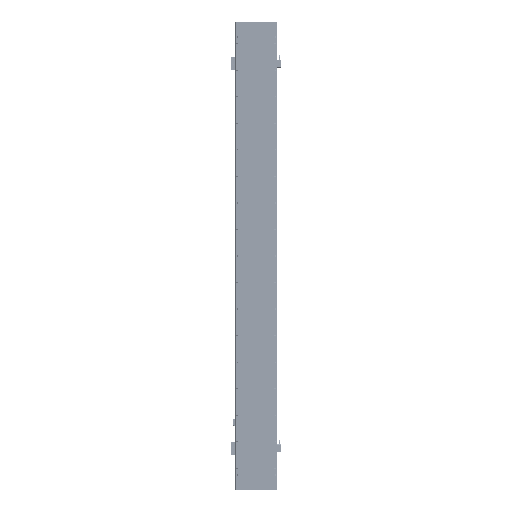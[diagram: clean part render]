
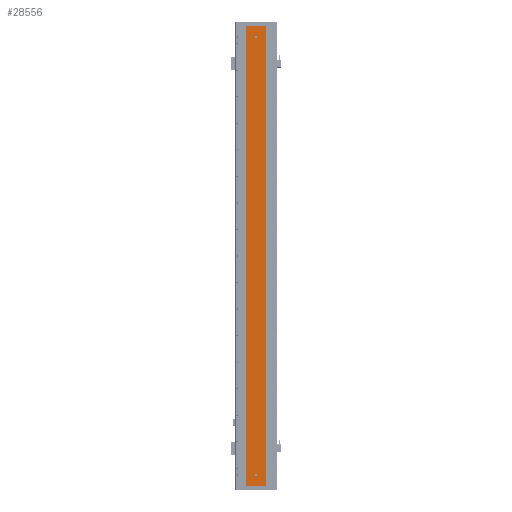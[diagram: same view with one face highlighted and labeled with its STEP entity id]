
A CAD part, front view. The second image highlights one B-rep face of the part: STEP entity #28556.
In plain terms, the highlighted planar face has unit normal (0, -1, 0).
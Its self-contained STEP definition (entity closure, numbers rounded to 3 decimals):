
#339 = CARTESIAN_POINT ( 'NONE',  ( -45., 0., -1038. ) ) ;
#2498 = ORIENTED_EDGE ( 'NONE', *, *, #120167, .F. ) ;
#2594 = ORIENTED_EDGE ( 'NONE', *, *, #75343, .T. ) ;
#5350 = VERTEX_POINT ( 'NONE', #13076 ) ;
#6104 = EDGE_LOOP ( 'NONE', ( #32100, #38266, #2498, #2594 ) ) ;
#6459 = ORIENTED_EDGE ( 'NONE', *, *, #42559, .F. ) ;
#6693 = EDGE_CURVE ( 'NONE', #28079, #112958, #102116, .T. ) ;
#7763 = LINE ( 'NONE', #43807, #54400 ) ;
#9191 = PLANE ( 'NONE',  #20084 ) ;
#10307 = FACE_BOUND ( 'NONE', #87865, .T. ) ;
#12374 = CARTESIAN_POINT ( 'NONE',  ( 4., 0., -989. ) ) ;
#13076 = CARTESIAN_POINT ( 'NONE',  ( 0., 0., 986. ) ) ;
#15814 = VECTOR ( 'NONE', #51748, 1000. ) ;
#15965 = CARTESIAN_POINT ( 'NONE',  ( 45., 0., -1038. ) ) ;
#16637 = VERTEX_POINT ( 'NONE', #81480 ) ;
#17279 = CIRCLE ( 'NONE', #45097, 4. ) ;
#18479 = DIRECTION ( 'NONE',  ( -1., 0., 0. ) ) ;
#20084 = AXIS2_PLACEMENT_3D ( 'NONE', #109587, #74446, #18479 ) ;
#20284 = LINE ( 'NONE', #93131, #45076 ) ;
#23159 = DIRECTION ( 'NONE',  ( 0., -1., 0. ) ) ;
#27803 = DIRECTION ( 'NONE',  ( 0., 0., -1. ) ) ;
#28079 = VERTEX_POINT ( 'NONE', #339 ) ;
#28556 = ADVANCED_FACE ( 'NONE', ( #10307, #106699, #37960 ), #9191, .F. ) ;
#32100 = ORIENTED_EDGE ( 'NONE', *, *, #6693, .T. ) ;
#32931 = CARTESIAN_POINT ( 'NONE',  ( 4., 0., -989. ) ) ;
#33279 = VERTEX_POINT ( 'NONE', #12374 ) ;
#36344 = ORIENTED_EDGE ( 'NONE', *, *, #68240, .F. ) ;
#37960 = FACE_OUTER_BOUND ( 'NONE', #6104, .T. ) ;
#38266 = ORIENTED_EDGE ( 'NONE', *, *, #110572, .F. ) ;
#40264 = DIRECTION ( 'NONE',  ( 0., -1., 0. ) ) ;
#40681 = CARTESIAN_POINT ( 'NONE',  ( 0., 0., 990. ) ) ;
#41036 = AXIS2_PLACEMENT_3D ( 'NONE', #96244, #40264, #105651 ) ;
#42109 = DIRECTION ( 'NONE',  ( 0., -1., 0. ) ) ;
#42559 = EDGE_CURVE ( 'NONE', #5350, #16637, #62576, .T. ) ;
#42996 = LINE ( 'NONE', #112497, #76683 ) ;
#43807 = CARTESIAN_POINT ( 'NONE',  ( -45., 0., 1038. ) ) ;
#44226 = DIRECTION ( 'NONE',  ( 1., 0., 0. ) ) ;
#45076 = VECTOR ( 'NONE', #27803, 1000. ) ;
#45097 = AXIS2_PLACEMENT_3D ( 'NONE', #40681, #106058, #50065 ) ;
#45226 = CARTESIAN_POINT ( 'NONE',  ( 45., 0., -1038. ) ) ;
#48793 = DIRECTION ( 'NONE',  ( 0., 0., -1. ) ) ;
#49284 = EDGE_CURVE ( 'NONE', #70753, #33279, #90351, .T. ) ;
#50065 = DIRECTION ( 'NONE',  ( 0., 0., -1. ) ) ;
#51143 = EDGE_CURVE ( 'NONE', #59166, #112771, #65123, .T. ) ;
#51505 = CARTESIAN_POINT ( 'NONE',  ( -4., 0., -991. ) ) ;
#51748 = DIRECTION ( 'NONE',  ( 0., 0., 1. ) ) ;
#54400 = VECTOR ( 'NONE', #99801, 1000. ) ;
#59166 = VERTEX_POINT ( 'NONE', #78225 ) ;
#62576 = CIRCLE ( 'NONE', #41036, 4. ) ;
#63828 = ORIENTED_EDGE ( 'NONE', *, *, #51143, .F. ) ;
#65123 = LINE ( 'NONE', #114260, #84164 ) ;
#68240 = EDGE_CURVE ( 'NONE', #16637, #5350, #17279, .T. ) ;
#70753 = VERTEX_POINT ( 'NONE', #72384 ) ;
#72384 = CARTESIAN_POINT ( 'NONE',  ( 4., 0., -991. ) ) ;
#74446 = DIRECTION ( 'NONE',  ( 0., 1., 0. ) ) ;
#75264 = DIRECTION ( 'NONE',  ( 1., 0., 0. ) ) ;
#75343 = EDGE_CURVE ( 'NONE', #99411, #28079, #7763, .T. ) ;
#76683 = VECTOR ( 'NONE', #75264, 1000. ) ;
#77235 = EDGE_LOOP ( 'NONE', ( #6459, #36344 ) ) ;
#77290 = VECTOR ( 'NONE', #44226, 1000. ) ;
#78225 = CARTESIAN_POINT ( 'NONE',  ( -4., 0., -989. ) ) ;
#79139 = CARTESIAN_POINT ( 'NONE',  ( 0., 0., -989. ) ) ;
#81480 = CARTESIAN_POINT ( 'NONE',  ( 0., 0., 994. ) ) ;
#82759 = CIRCLE ( 'NONE', #113313, 4. ) ;
#84164 = VECTOR ( 'NONE', #48793, 1000. ) ;
#84486 = CIRCLE ( 'NONE', #91231, 4. ) ;
#87392 = ORIENTED_EDGE ( 'NONE', *, *, #89232, .F. ) ;
#87865 = EDGE_LOOP ( 'NONE', ( #101236, #87392, #63828, #110476 ) ) ;
#88502 = DIRECTION ( 'NONE',  ( 1., 0., 0. ) ) ;
#89232 = EDGE_CURVE ( 'NONE', #112771, #70753, #84486, .T. ) ;
#90351 = LINE ( 'NONE', #32931, #15814 ) ;
#91074 = CARTESIAN_POINT ( 'NONE',  ( -45., 0., 1038. ) ) ;
#91231 = AXIS2_PLACEMENT_3D ( 'NONE', #98115, #42109, #107493 ) ;
#93131 = CARTESIAN_POINT ( 'NONE',  ( 45., 0., 1038. ) ) ;
#96244 = CARTESIAN_POINT ( 'NONE',  ( 0., 0., 990. ) ) ;
#98115 = CARTESIAN_POINT ( 'NONE',  ( 0., 0., -991. ) ) ;
#99411 = VERTEX_POINT ( 'NONE', #91074 ) ;
#99801 = DIRECTION ( 'NONE',  ( 0., 0., -1. ) ) ;
#100753 = CARTESIAN_POINT ( 'NONE',  ( 45., 0., 1038. ) ) ;
#101236 = ORIENTED_EDGE ( 'NONE', *, *, #49284, .F. ) ;
#101698 = EDGE_CURVE ( 'NONE', #33279, #59166, #82759, .T. ) ;
#102116 = LINE ( 'NONE', #45226, #77290 ) ;
#105651 = DIRECTION ( 'NONE',  ( 0., 0., -1. ) ) ;
#106058 = DIRECTION ( 'NONE',  ( 0., -1., 0. ) ) ;
#106699 = FACE_BOUND ( 'NONE', #77235, .T. ) ;
#107493 = DIRECTION ( 'NONE',  ( 1., 0., 0. ) ) ;
#109587 = CARTESIAN_POINT ( 'NONE',  ( 45., 0., 1038. ) ) ;
#110476 = ORIENTED_EDGE ( 'NONE', *, *, #101698, .F. ) ;
#110572 = EDGE_CURVE ( 'NONE', #111225, #112958, #20284, .T. ) ;
#111225 = VERTEX_POINT ( 'NONE', #100753 ) ;
#112497 = CARTESIAN_POINT ( 'NONE',  ( 45., 0., 1038. ) ) ;
#112771 = VERTEX_POINT ( 'NONE', #51505 ) ;
#112958 = VERTEX_POINT ( 'NONE', #15965 ) ;
#113313 = AXIS2_PLACEMENT_3D ( 'NONE', #79139, #23159, #88502 ) ;
#114260 = CARTESIAN_POINT ( 'NONE',  ( -4., 0., -989. ) ) ;
#120167 = EDGE_CURVE ( 'NONE', #99411, #111225, #42996, .T. ) ;
